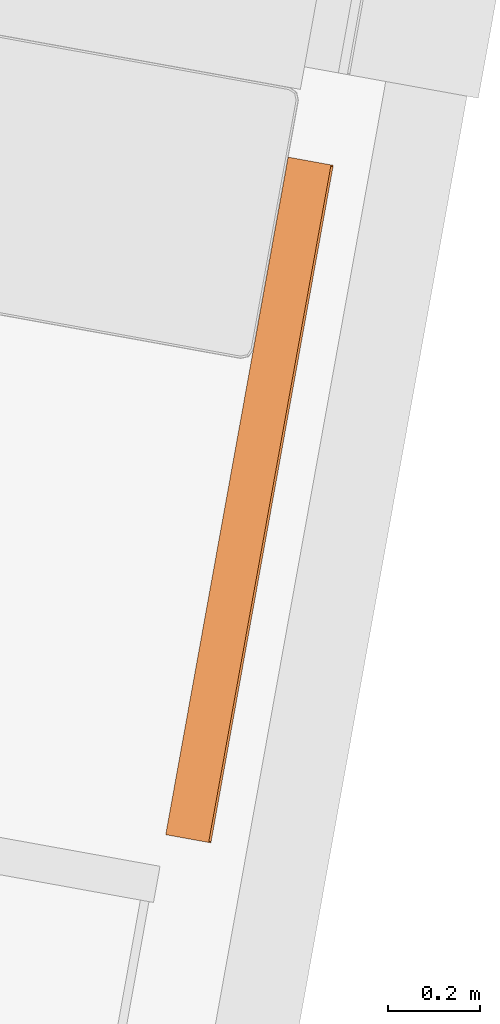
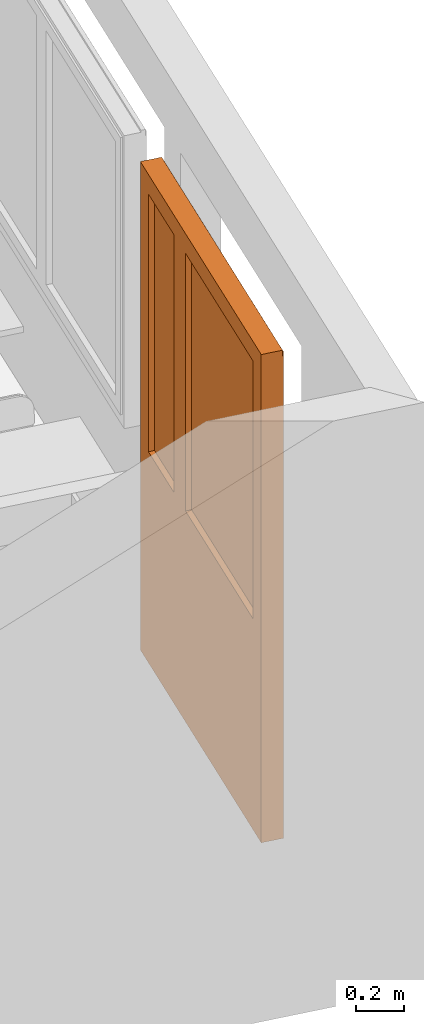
# One storey, part 54 of 79: 1 proxy.
"""IFC2X3 building model written with IfcOpenShell, lengths in metres."""

from ifc_helpers import new_model, entity, si_unit, converted_unit, derived_unit, money_unit, direction, frame, origin_with_axes, place, context, subcontext, project, spatial, open_shell, faceted_brep, surface_model, material, type_object, element, save


model = new_model("IFC2X3")

# Units and contexts
model_context = context("Model", 3, precision=1e-05, world=origin_with_axes(), true_north=direction((0.0, 1.0)))
body_context = subcontext(model_context, "Body", "Model", "MODEL_VIEW")
ifc_project = project(units=[si_unit("LENGTHUNIT", "METRE"), si_unit("AREAUNIT", "SQUARE_METRE"), si_unit("VOLUMEUNIT", "CUBIC_METRE"), converted_unit("PLANEANGLEUNIT", "DEGREE", entity("IfcPlaneAngleMeasure", 0.0174532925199), si_unit("PLANEANGLEUNIT", "RADIAN"), dimensions=[0, 0, 0, 0, 0, 0, 0]), money_unit("CHF"), converted_unit("TIMEUNIT", "Year", entity("IfcTimeMeasure", 31556926.0), si_unit("TIMEUNIT", "SECOND"), dimensions=[0, 0, 1, 0, 0, 0, 0]), si_unit("MASSUNIT", "GRAM", prefix="KILO"), si_unit("THERMODYNAMICTEMPERATUREUNIT", "DEGREE_CELSIUS"), si_unit("LUMINOUSINTENSITYUNIT", "LUMEN"), si_unit("ENERGYUNIT", "JOULE", prefix="MEGA"), derived_unit("THERMALCONDUCTANCEUNIT", [(si_unit("POWERUNIT", "WATT"), 1), (si_unit("LENGTHUNIT", "METRE"), -1), (si_unit("THERMODYNAMICTEMPERATUREUNIT", "KELVIN"), -1)]), derived_unit("SPECIFICHEATCAPACITYUNIT", [(si_unit("ENERGYUNIT", "JOULE"), 1), (si_unit("MASSUNIT", "GRAM", prefix="KILO"), -1), (si_unit("THERMODYNAMICTEMPERATUREUNIT", "KELVIN"), -1)]), derived_unit("MASSDENSITYUNIT", [(si_unit("MASSUNIT", "GRAM", prefix="KILO"), 1), (si_unit("VOLUMEUNIT", "CUBIC_METRE"), -1)])], contexts=[model_context])

# Site, building, storey
site_placement = place(None, frame((0.0, 0.0, 0.0), z_axis=(0.0, 0.0, 1.0), x_axis=(-0.177771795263, -0.984071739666, 0.0)))
site = spatial("IfcSite", under=ifc_project, at=site_placement, Name="Site", CompositionType="ELEMENT")
building_placement = place(site_placement, origin_with_axes())
building = spatial("IfcBuilding", under=site, at=building_placement, Name="Bâtiment", CompositionType="ELEMENT")
storey_placement = place(building_placement, origin_with_axes())
storey = spatial("IfcBuildingStorey", under=building, at=storey_placement, Name="RDC", CompositionType="ELEMENT", Elevation=0.0)

# Proxy
ifc_material = material(Name="Matériau de construction IFC")
building_element_proxy_type = type_object("IfcBuildingElementProxyType", Name="Porte double asymétrique 21", PredefinedType="NOTDEFINED")
proxy_placement = place(storey_placement, frame((163.999841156, -148.117150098, 0.0), z_axis=(0.0, 0.0, 1.0), x_axis=(-1.0, 0.0, 0.0)))
element("IfcBuildingElementProxy", 1, at=proxy_placement, inside=storey, type_object=building_element_proxy_type, material=ifc_material, Name="Porte classe", context=body_context, shape_type="SurfaceModel", body=[
    faceted_brep([(1.5, 0.285, 2.47), (1.5, 0.265, 2.47), (1.497, 0.265, 2.47), (1.497, 0.285, 2.47), (1.5, 0.285, 2.5), (1.5, 0.265, 2.5), (1.497, 0.265, 2.5), (1.497, 0.285, 2.5)], [[[0, 1, 2, 3]], [[0, 4, 5, 1]], [[1, 5, 6, 2]], [[3, 2, 6, 7]], [[4, 0, 3, 7]], [[5, 4, 7, 6]]]),
    faceted_brep([(0.00299999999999, 0.285, 2.47), (0.00299999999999, 0.265, 2.47), (0.0, 0.265, 2.47), (0.0, 0.285, 2.47), (0.00299999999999, 0.285, 2.5), (0.00299999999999, 0.265, 2.5), (0.0, 0.265, 2.5), (0.0, 0.285, 2.5)], [[[0, 1, 2, 3]], [[0, 4, 5, 1]], [[1, 5, 6, 2]], [[3, 2, 6, 7]], [[4, 0, 3, 7]], [[5, 4, 7, 6]]]),
    faceted_brep([(1.497, 0.285, 2.47), (1.497, 0.282, 2.47), (0.00299999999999, 0.282, 2.47), (0.00299999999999, 0.285, 2.47), (1.497, 0.285, 2.5), (1.497, 0.265, 2.5), (1.497, 0.265, 2.47), (1.497, 0.268, 2.47), (1.497, 0.268, 2.49), (1.497, 0.26, 2.49), (1.497, 0.26, 2.47), (1.497, 0.263, 2.47), (1.497, 0.263, 2.493), (1.497, 0.268, 2.493), (1.497, 0.268, 2.497), (1.497, 0.282, 2.497), (1.497, 0.282, 2.49), (0.00299999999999, 0.282, 2.49), (0.00299999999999, 0.282, 2.497), (0.00299999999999, 0.268, 2.497), (0.00299999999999, 0.268, 2.493), (0.00299999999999, 0.263, 2.493), (0.00299999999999, 0.263, 2.47), (0.00299999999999, 0.26, 2.47), (0.00299999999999, 0.26, 2.49), (0.00299999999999, 0.268, 2.49), (0.00299999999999, 0.268, 2.47), (0.00299999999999, 0.265, 2.47), (0.00299999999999, 0.265, 2.5), (0.00299999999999, 0.285, 2.5)], [[[0, 1, 2, 3]], [[0, 4, 5, 6, 7, 8, 9, 10, 11, 12, 13, 14, 15, 16, 1]], [[1, 16, 17, 2]], [[3, 2, 17, 18, 19, 20, 21, 22, 23, 24, 25, 26, 27, 28, 29]], [[4, 0, 3, 29]], [[5, 4, 29, 28]], [[6, 5, 28, 27]], [[7, 6, 27, 26]], [[8, 7, 26, 25]], [[9, 8, 25, 24]], [[10, 9, 24, 23]], [[11, 10, 23, 22]], [[12, 11, 22, 21]], [[13, 12, 21, 20]], [[14, 13, 20, 19]], [[15, 14, 19, 18]], [[16, 15, 18, 17]]]),
    faceted_brep([(0.0, 0.285, 0.0), (0.0, 0.26, 0.0), (0.0, 0.26, 2.47), (0.0, 0.285, 2.47), (0.025, 0.285, 0.0), (0.025, 0.282, 0.0), (0.00299999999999, 0.282, 0.0), (0.00299999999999, 0.263, 0.0), (0.025, 0.263, 0.0), (0.025, 0.26, 0.0), (0.025, 0.26, 2.47), (0.025, 0.263, 2.47), (0.00299999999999, 0.263, 2.47), (0.00299999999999, 0.282, 2.47), (0.025, 0.282, 2.47), (0.025, 0.285, 2.47)], [[[0, 1, 2, 3]], [[0, 4, 5, 6, 7, 8, 9, 1]], [[1, 9, 10, 2]], [[3, 2, 10, 11, 12, 13, 14, 15]], [[4, 0, 3, 15]], [[5, 4, 15, 14]], [[6, 5, 14, 13]], [[7, 6, 13, 12]], [[8, 7, 12, 11]], [[9, 8, 11, 10]]]),
    faceted_brep([(1.5, 0.285, 0.0), (1.5, 0.285, 2.47), (1.5, 0.26, 2.47), (1.5, 0.26, 0.0), (1.475, 0.285, 0.0), (1.475, 0.285, 2.47), (1.475, 0.282, 2.47), (1.497, 0.282, 2.47), (1.497, 0.263, 2.47), (1.475, 0.263, 2.47), (1.475, 0.26, 2.47), (1.475, 0.26, 0.0), (1.475, 0.263, 0.0), (1.497, 0.263, 0.0), (1.497, 0.282, 0.0), (1.475, 0.282, 0.0)], [[[0, 1, 2, 3]], [[4, 5, 1, 0]], [[1, 5, 6, 7, 8, 9, 10, 2]], [[3, 2, 10, 11]], [[0, 3, 11, 12, 13, 14, 15, 4]], [[15, 6, 5, 4]], [[14, 7, 6, 15]], [[13, 8, 7, 14]], [[12, 9, 8, 13]], [[11, 10, 9, 12]]]),
    faceted_brep([(0.00299999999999, 0.27375, 2.495), (1.497, 0.27375, 2.495), (1.497, 0.273333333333, 2.49333333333), (0.00299999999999, 0.273333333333, 2.49333333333), (0.00299999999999, 0.26875, 2.495), (1.497, 0.26875, 2.495), (1.497, 0.268333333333, 2.49333333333), (1.497, 0.268333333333, 2.48666666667), (1.497, 0.27, 2.48), (1.497, 0.275, 2.48), (1.497, 0.273333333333, 2.48666666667), (0.00299999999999, 0.273333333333, 2.48666666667), (0.00299999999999, 0.275, 2.48), (0.00299999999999, 0.27, 2.48), (0.00299999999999, 0.268333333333, 2.48666666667), (0.00299999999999, 0.268333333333, 2.49333333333)], [[[0, 1, 2, 3]], [[1, 0, 4, 5]], [[1, 5, 6, 7, 8, 9, 10, 2]], [[2, 10, 11, 3]], [[4, 0, 3, 11, 12, 13, 14, 15]], [[6, 5, 4, 15]], [[7, 6, 15, 14]], [[8, 7, 14, 13]], [[9, 8, 13, 12]], [[10, 9, 12, 11]]]),
    faceted_brep([(1.497, 0.275, 2.48), (1.497, 0.273333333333, 2.47333333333), (0.00299999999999, 0.273333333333, 2.47333333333), (0.00299999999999, 0.275, 2.48), (1.497, 0.27, 2.48), (1.497, 0.268333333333, 2.47333333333), (1.497, 0.268333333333, 2.46666666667), (1.497, 0.27, 2.46), (1.497, 0.275, 2.46), (1.497, 0.273333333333, 2.46666666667), (0.00299999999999, 0.273333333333, 2.46666666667), (0.00299999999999, 0.275, 2.46), (0.00299999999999, 0.27, 2.46), (0.00299999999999, 0.268333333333, 2.46666666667), (0.00299999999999, 0.268333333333, 2.47333333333), (0.00299999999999, 0.27, 2.48)], [[[0, 1, 2, 3]], [[0, 4, 5, 6, 7, 8, 9, 1]], [[1, 9, 10, 2]], [[3, 2, 10, 11, 12, 13, 14, 15]], [[4, 0, 3, 15]], [[5, 4, 15, 14]], [[6, 5, 14, 13]], [[7, 6, 13, 12]], [[8, 7, 12, 11]], [[9, 8, 11, 10]]]),
    faceted_brep([(1.497, 0.275, 2.46), (1.497, 0.273333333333, 2.45333333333), (0.00299999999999, 0.273333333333, 2.45333333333), (0.00299999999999, 0.275, 2.46), (1.497, 0.27, 2.46), (1.497, 0.268333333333, 2.45333333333), (1.497, 0.268333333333, 2.44666666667), (1.497, 0.27, 2.44), (1.497, 0.275, 2.44), (1.497, 0.273333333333, 2.44666666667), (0.00299999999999, 0.273333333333, 2.44666666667), (0.00299999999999, 0.275, 2.44), (0.00299999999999, 0.27, 2.44), (0.00299999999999, 0.268333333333, 2.44666666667), (0.00299999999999, 0.268333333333, 2.45333333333), (0.00299999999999, 0.27, 2.46)], [[[0, 1, 2, 3]], [[0, 4, 5, 6, 7, 8, 9, 1]], [[1, 9, 10, 2]], [[3, 2, 10, 11, 12, 13, 14, 15]], [[4, 0, 3, 15]], [[5, 4, 15, 14]], [[6, 5, 14, 13]], [[7, 6, 13, 12]], [[8, 7, 12, 11]], [[9, 8, 11, 10]]]),
    faceted_brep([(1.497, 0.275, 2.44), (1.497, 0.273333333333, 2.43333333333), (0.00299999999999, 0.273333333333, 2.43333333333), (0.00299999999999, 0.275, 2.44), (1.497, 0.27, 2.44), (1.497, 0.268333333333, 2.43333333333), (1.497, 0.268333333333, 2.42666666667), (1.497, 0.27, 2.42), (1.497, 0.275, 2.42), (1.497, 0.273333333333, 2.42666666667), (0.00299999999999, 0.273333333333, 2.42666666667), (0.00299999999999, 0.275, 2.42), (0.00299999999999, 0.27, 2.42), (0.00299999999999, 0.268333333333, 2.42666666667), (0.00299999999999, 0.268333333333, 2.43333333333), (0.00299999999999, 0.27, 2.44)], [[[0, 1, 2, 3]], [[0, 4, 5, 6, 7, 8, 9, 1]], [[1, 9, 10, 2]], [[3, 2, 10, 11, 12, 13, 14, 15]], [[4, 0, 3, 15]], [[5, 4, 15, 14]], [[6, 5, 14, 13]], [[7, 6, 13, 12]], [[8, 7, 12, 11]], [[9, 8, 11, 10]]]),
    faceted_brep([(1.497, 0.275, 2.42), (1.497, 0.273333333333, 2.41333333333), (0.00299999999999, 0.273333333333, 2.41333333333), (0.00299999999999, 0.275, 2.42), (1.497, 0.27, 2.42), (1.497, 0.268333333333, 2.41333333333), (1.497, 0.268333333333, 2.40666666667), (1.497, 0.27, 2.4), (1.497, 0.275, 2.4), (1.497, 0.273333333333, 2.40666666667), (0.00299999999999, 0.273333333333, 2.40666666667), (0.00299999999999, 0.275, 2.4), (0.00299999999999, 0.27, 2.4), (0.00299999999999, 0.268333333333, 2.40666666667), (0.00299999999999, 0.268333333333, 2.41333333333), (0.00299999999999, 0.27, 2.42)], [[[0, 1, 2, 3]], [[0, 4, 5, 6, 7, 8, 9, 1]], [[1, 9, 10, 2]], [[3, 2, 10, 11, 12, 13, 14, 15]], [[4, 0, 3, 15]], [[5, 4, 15, 14]], [[6, 5, 14, 13]], [[7, 6, 13, 12]], [[8, 7, 12, 11]], [[9, 8, 11, 10]]]),
    faceted_brep([(1.497, 0.275, 2.4), (1.497, 0.273333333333, 2.39333333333), (0.00299999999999, 0.273333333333, 2.39333333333), (0.00299999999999, 0.275, 2.4), (1.497, 0.27, 2.4), (1.497, 0.268333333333, 2.39333333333), (1.497, 0.268333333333, 2.38666666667), (1.497, 0.27, 2.38), (1.497, 0.275, 2.38), (1.497, 0.273333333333, 2.38666666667), (0.00299999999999, 0.273333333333, 2.38666666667), (0.00299999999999, 0.275, 2.38), (0.00299999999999, 0.27, 2.38), (0.00299999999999, 0.268333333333, 2.38666666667), (0.00299999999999, 0.268333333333, 2.39333333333), (0.00299999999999, 0.27, 2.4)], [[[0, 1, 2, 3]], [[0, 4, 5, 6, 7, 8, 9, 1]], [[1, 9, 10, 2]], [[3, 2, 10, 11, 12, 13, 14, 15]], [[4, 0, 3, 15]], [[5, 4, 15, 14]], [[6, 5, 14, 13]], [[7, 6, 13, 12]], [[8, 7, 12, 11]], [[9, 8, 11, 10]]]),
    faceted_brep([(1.497, 0.275, 2.38), (1.497, 0.273333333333, 2.37333333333), (0.00299999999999, 0.273333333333, 2.37333333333), (0.00299999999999, 0.275, 2.38), (1.497, 0.27, 2.38), (1.497, 0.268333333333, 2.37333333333), (1.497, 0.268333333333, 2.36666666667), (1.497, 0.27, 2.36), (1.497, 0.275, 2.36), (1.497, 0.273333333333, 2.36666666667), (0.00299999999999, 0.273333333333, 2.36666666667), (0.00299999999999, 0.275, 2.36), (0.00299999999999, 0.27, 2.36), (0.00299999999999, 0.268333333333, 2.36666666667), (0.00299999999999, 0.268333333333, 2.37333333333), (0.00299999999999, 0.27, 2.38)], [[[0, 1, 2, 3]], [[0, 4, 5, 6, 7, 8, 9, 1]], [[1, 9, 10, 2]], [[3, 2, 10, 11, 12, 13, 14, 15]], [[4, 0, 3, 15]], [[5, 4, 15, 14]], [[6, 5, 14, 13]], [[7, 6, 13, 12]], [[8, 7, 12, 11]], [[9, 8, 11, 10]]]),
    faceted_brep([(1.497, 0.275, 2.36), (1.497, 0.273333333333, 2.35333333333), (0.00299999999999, 0.273333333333, 2.35333333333), (0.00299999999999, 0.275, 2.36), (1.497, 0.27, 2.36), (1.497, 0.268333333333, 2.35333333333), (1.497, 0.268333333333, 2.34666666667), (1.497, 0.27, 2.34), (1.497, 0.275, 2.34), (1.497, 0.273333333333, 2.34666666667), (0.00299999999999, 0.273333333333, 2.34666666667), (0.00299999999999, 0.275, 2.34), (0.00299999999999, 0.27, 2.34), (0.00299999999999, 0.268333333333, 2.34666666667), (0.00299999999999, 0.268333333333, 2.35333333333), (0.00299999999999, 0.27, 2.36)], [[[0, 1, 2, 3]], [[0, 4, 5, 6, 7, 8, 9, 1]], [[1, 9, 10, 2]], [[3, 2, 10, 11, 12, 13, 14, 15]], [[4, 0, 3, 15]], [[5, 4, 15, 14]], [[6, 5, 14, 13]], [[7, 6, 13, 12]], [[8, 7, 12, 11]], [[9, 8, 11, 10]]]),
    faceted_brep([(1.497, 0.275, 2.34), (1.497, 0.273333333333, 2.33333333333), (0.00299999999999, 0.273333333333, 2.33333333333), (0.00299999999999, 0.275, 2.34), (1.497, 0.27, 2.34), (1.497, 0.268333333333, 2.33333333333), (1.497, 0.268333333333, 2.32666666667), (1.497, 0.27, 2.32), (1.497, 0.275, 2.32), (1.497, 0.273333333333, 2.32666666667), (0.00299999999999, 0.273333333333, 2.32666666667), (0.00299999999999, 0.275, 2.32), (0.00299999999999, 0.27, 2.32), (0.00299999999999, 0.268333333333, 2.32666666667), (0.00299999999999, 0.268333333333, 2.33333333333), (0.00299999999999, 0.27, 2.34)], [[[0, 1, 2, 3]], [[0, 4, 5, 6, 7, 8, 9, 1]], [[1, 9, 10, 2]], [[3, 2, 10, 11, 12, 13, 14, 15]], [[4, 0, 3, 15]], [[5, 4, 15, 14]], [[6, 5, 14, 13]], [[7, 6, 13, 12]], [[8, 7, 12, 11]], [[9, 8, 11, 10]]]),
    faceted_brep([(1.497, 0.275, 2.32), (1.497, 0.273333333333, 2.31333333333), (0.00299999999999, 0.273333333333, 2.31333333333), (0.00299999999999, 0.275, 2.32), (1.497, 0.27, 2.32), (1.497, 0.268333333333, 2.31333333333), (1.497, 0.268333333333, 2.30666666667), (1.497, 0.27, 2.3), (1.497, 0.275, 2.3), (1.497, 0.273333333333, 2.30666666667), (0.00299999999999, 0.273333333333, 2.30666666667), (0.00299999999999, 0.275, 2.3), (0.00299999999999, 0.27, 2.3), (0.00299999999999, 0.268333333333, 2.30666666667), (0.00299999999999, 0.268333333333, 2.31333333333), (0.00299999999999, 0.27, 2.32)], [[[0, 1, 2, 3]], [[0, 4, 5, 6, 7, 8, 9, 1]], [[1, 9, 10, 2]], [[3, 2, 10, 11, 12, 13, 14, 15]], [[4, 0, 3, 15]], [[5, 4, 15, 14]], [[6, 5, 14, 13]], [[7, 6, 13, 12]], [[8, 7, 12, 11]], [[9, 8, 11, 10]]]),
    faceted_brep([(1.497, 0.275, 2.3), (1.497, 0.273333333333, 2.29333333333), (0.00299999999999, 0.273333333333, 2.29333333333), (0.00299999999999, 0.275, 2.3), (1.497, 0.27, 2.3), (1.497, 0.268333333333, 2.29333333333), (1.497, 0.268333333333, 2.28666666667), (1.497, 0.27, 2.28), (1.497, 0.275, 2.28), (1.497, 0.273333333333, 2.28666666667), (0.00299999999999, 0.273333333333, 2.28666666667), (0.00299999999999, 0.275, 2.28), (0.00299999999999, 0.27, 2.28), (0.00299999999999, 0.268333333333, 2.28666666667), (0.00299999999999, 0.268333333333, 2.29333333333), (0.00299999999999, 0.27, 2.3)], [[[0, 1, 2, 3]], [[0, 4, 5, 6, 7, 8, 9, 1]], [[1, 9, 10, 2]], [[3, 2, 10, 11, 12, 13, 14, 15]], [[4, 0, 3, 15]], [[5, 4, 15, 14]], [[6, 5, 14, 13]], [[7, 6, 13, 12]], [[8, 7, 12, 11]], [[9, 8, 11, 10]]]),
    faceted_brep([(1.497, 0.275, 2.28), (1.497, 0.273333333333, 2.27333333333), (0.00299999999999, 0.273333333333, 2.27333333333), (0.00299999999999, 0.275, 2.28), (1.497, 0.27, 2.28), (1.497, 0.268333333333, 2.27333333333), (1.497, 0.268333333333, 2.26666666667), (1.497, 0.27, 2.26), (1.497, 0.275, 2.26), (1.497, 0.273333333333, 2.26666666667), (0.00299999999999, 0.273333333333, 2.26666666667), (0.00299999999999, 0.275, 2.26), (0.00299999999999, 0.27, 2.26), (0.00299999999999, 0.268333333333, 2.26666666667), (0.00299999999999, 0.268333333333, 2.27333333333), (0.00299999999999, 0.27, 2.28)], [[[0, 1, 2, 3]], [[0, 4, 5, 6, 7, 8, 9, 1]], [[1, 9, 10, 2]], [[3, 2, 10, 11, 12, 13, 14, 15]], [[4, 0, 3, 15]], [[5, 4, 15, 14]], [[6, 5, 14, 13]], [[7, 6, 13, 12]], [[8, 7, 12, 11]], [[9, 8, 11, 10]]]),
    faceted_brep([(1.497, 0.275, 2.26), (1.497, 0.273333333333, 2.25333333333), (0.00299999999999, 0.273333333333, 2.25333333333), (0.00299999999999, 0.275, 2.26), (1.497, 0.27, 2.26), (1.497, 0.268333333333, 2.25333333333), (1.497, 0.268333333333, 2.24666666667), (1.497, 0.27, 2.24), (1.497, 0.275, 2.24), (1.497, 0.273333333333, 2.24666666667), (0.00299999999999, 0.273333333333, 2.24666666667), (0.00299999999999, 0.275, 2.24), (0.00299999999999, 0.27, 2.24), (0.00299999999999, 0.268333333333, 2.24666666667), (0.00299999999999, 0.268333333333, 2.25333333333), (0.00299999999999, 0.27, 2.26)], [[[0, 1, 2, 3]], [[0, 4, 5, 6, 7, 8, 9, 1]], [[1, 9, 10, 2]], [[3, 2, 10, 11, 12, 13, 14, 15]], [[4, 0, 3, 15]], [[5, 4, 15, 14]], [[6, 5, 14, 13]], [[7, 6, 13, 12]], [[8, 7, 12, 11]], [[9, 8, 11, 10]]]),
    faceted_brep([(1.497, 0.275, 2.24), (1.497, 0.273333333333, 2.23333333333), (0.00299999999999, 0.273333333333, 2.23333333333), (0.00299999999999, 0.275, 2.24), (1.497, 0.27, 2.24), (1.497, 0.268333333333, 2.23333333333), (1.497, 0.268333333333, 2.22666666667), (1.497, 0.27, 2.22), (1.497, 0.275, 2.22), (1.497, 0.273333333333, 2.22666666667), (0.00299999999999, 0.273333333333, 2.22666666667), (0.00299999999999, 0.275, 2.22), (0.00299999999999, 0.27, 2.22), (0.00299999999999, 0.268333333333, 2.22666666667), (0.00299999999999, 0.268333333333, 2.23333333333), (0.00299999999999, 0.27, 2.24)], [[[0, 1, 2, 3]], [[0, 4, 5, 6, 7, 8, 9, 1]], [[1, 9, 10, 2]], [[3, 2, 10, 11, 12, 13, 14, 15]], [[4, 0, 3, 15]], [[5, 4, 15, 14]], [[6, 5, 14, 13]], [[7, 6, 13, 12]], [[8, 7, 12, 11]], [[9, 8, 11, 10]]]),
    faceted_brep([(1.497, 0.275, 2.22), (1.497, 0.273333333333, 2.21333333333), (0.00299999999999, 0.273333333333, 2.21333333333), (0.00299999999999, 0.275, 2.22), (1.497, 0.27, 2.22), (1.497, 0.268333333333, 2.21333333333), (1.497, 0.268333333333, 2.20666666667), (1.497, 0.27, 2.2), (1.497, 0.275, 2.2), (1.497, 0.273333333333, 2.20666666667), (0.00299999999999, 0.273333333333, 2.20666666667), (0.00299999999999, 0.275, 2.2), (0.00299999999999, 0.27, 2.2), (0.00299999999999, 0.268333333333, 2.20666666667), (0.00299999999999, 0.268333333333, 2.21333333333), (0.00299999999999, 0.27, 2.22)], [[[0, 1, 2, 3]], [[0, 4, 5, 6, 7, 8, 9, 1]], [[1, 9, 10, 2]], [[3, 2, 10, 11, 12, 13, 14, 15]], [[4, 0, 3, 15]], [[5, 4, 15, 14]], [[6, 5, 14, 13]], [[7, 6, 13, 12]], [[8, 7, 12, 11]], [[9, 8, 11, 10]]]),
    faceted_brep([(1.5, 0.36, 0.0), (1.5, 0.285, 0.0), (1.47, 0.285, 0.0), (1.47, 0.36, 0.0), (1.5, 0.36, 2.47), (1.5, 0.285, 2.47), (1.47, 0.285, 2.47), (1.47, 0.36, 2.47)], [[[0, 1, 2, 3]], [[4, 5, 1, 0]], [[1, 5, 6, 2]], [[3, 2, 6, 7]], [[0, 3, 7, 4]], [[7, 6, 5, 4]]]),
    faceted_brep([(0.0, 0.36, 0.0), (0.0, 0.285, 0.0), (0.0, 0.285, 2.47), (0.0, 0.36, 2.47), (0.03, 0.36, 0.0), (0.03, 0.285, 0.0), (0.03, 0.285, 2.47), (0.03, 0.36, 2.47)], [[[0, 1, 2, 3]], [[4, 5, 1, 0]], [[1, 5, 6, 2]], [[3, 2, 6, 7]], [[0, 3, 7, 4]], [[7, 6, 5, 4]]]),
    faceted_brep([(1.5, 0.36, 2.5), (1.5, 0.285, 2.5), (1.5, 0.285, 2.47), (1.5, 0.36, 2.47), (0.0, 0.36, 2.5), (0.0, 0.285, 2.5), (0.0, 0.285, 2.47), (0.03, 0.285, 2.47), (1.47, 0.285, 2.47), (1.47, 0.36, 2.47), (0.03, 0.36, 2.47), (0.0, 0.36, 2.47)], [[[0, 1, 2, 3]], [[4, 5, 1, 0]], [[1, 5, 6, 7, 8, 2]], [[3, 2, 8, 9]], [[0, 3, 9, 10, 11, 4]], [[11, 6, 5, 4]], [[10, 7, 6, 11]], [[9, 8, 7, 10]]]),
    faceted_brep([(0.03, 0.36, 1.08), (0.1, 0.36, 1.08), (0.1, 0.285, 1.08), (0.03, 0.285, 1.08), (0.03, 0.36, 2.4), (0.1, 0.36, 2.4), (0.1, 0.285, 2.4), (0.03, 0.285, 2.4)], [[[0, 1, 2, 3]], [[0, 4, 5, 1]], [[1, 5, 6, 2]], [[3, 2, 6, 7]], [[4, 0, 3, 7]], [[5, 4, 7, 6]]]),
    faceted_brep([(1.01, 0.36, 1.08), (1.01, 0.36, 2.4), (1.01, 0.285, 2.4), (1.01, 0.285, 1.08), (0.94, 0.36, 1.08), (0.94, 0.36, 2.4), (0.94, 0.285, 2.4), (0.94, 0.285, 1.08)], [[[0, 1, 2, 3]], [[0, 4, 5, 1]], [[1, 5, 6, 2]], [[3, 2, 6, 7]], [[4, 0, 3, 7]], [[5, 4, 7, 6]]]),
    faceted_brep([(0.03, 0.36, 0.0), (1.01, 0.36, 0.0), (1.01, 0.285, 0.0), (0.03, 0.285, 0.0), (0.03, 0.36, 1.08), (0.1, 0.36, 1.08), (0.94, 0.36, 1.08), (1.01, 0.36, 1.08), (1.01, 0.285, 1.08), (0.94, 0.285, 1.08), (0.1, 0.285, 1.08), (0.03, 0.285, 1.08)], [[[0, 1, 2, 3]], [[0, 4, 5, 6, 7, 1]], [[1, 7, 8, 2]], [[3, 2, 8, 9, 10, 11]], [[4, 0, 3, 11]], [[5, 4, 11, 10]], [[6, 5, 10, 9]], [[7, 6, 9, 8]]]),
    faceted_brep([(0.03, 0.36, 2.47), (0.03, 0.36, 2.4), (0.03, 0.285, 2.4), (0.03, 0.285, 2.47), (1.01, 0.36, 2.47), (1.01, 0.36, 2.4), (0.94, 0.36, 2.4), (0.1, 0.36, 2.4), (0.1, 0.285, 2.4), (0.94, 0.285, 2.4), (1.01, 0.285, 2.4), (1.01, 0.285, 2.47)], [[[0, 1, 2, 3]], [[0, 4, 5, 6, 7, 1]], [[1, 7, 8, 2]], [[3, 2, 8, 9, 10, 11]], [[4, 0, 3, 11]], [[5, 4, 11, 10]], [[6, 5, 10, 9]], [[7, 6, 9, 8]]]),
    surface_model("IfcShellBasedSurfaceModel", [(0.1, 0.3325, 1.08), (0.1, 0.3325, 2.4), (0.94, 0.3325, 2.4), (0.94, 0.3325, 1.08)], [open_shell([[[0, 1, 2, 3]]])]),
    surface_model("IfcShellBasedSurfaceModel", [(0.1, 0.3125, 1.08), (0.94, 0.3125, 1.08), (0.94, 0.3125, 2.4), (0.1, 0.3125, 2.4)], [open_shell([[[0, 1, 2, 3]]])]),
    faceted_brep([(1.47, 0.36, 1.08), (1.47, 0.285, 1.08), (1.4, 0.285, 1.08), (1.4, 0.36, 1.08), (1.47, 0.36, 2.4), (1.47, 0.285, 2.4), (1.4, 0.285, 2.4), (1.4, 0.36, 2.4)], [[[0, 1, 2, 3]], [[4, 5, 1, 0]], [[1, 5, 6, 2]], [[3, 2, 6, 7]], [[0, 3, 7, 4]], [[7, 6, 5, 4]]]),
    faceted_brep([(1.01, 0.36, 1.08), (1.01, 0.285, 1.08), (1.01, 0.285, 2.4), (1.01, 0.36, 2.4), (1.08, 0.36, 1.08), (1.08, 0.285, 1.08), (1.08, 0.285, 2.4), (1.08, 0.36, 2.4)], [[[0, 1, 2, 3]], [[4, 5, 1, 0]], [[1, 5, 6, 2]], [[3, 2, 6, 7]], [[0, 3, 7, 4]], [[7, 6, 5, 4]]]),
    faceted_brep([(1.47, 0.36, 0.0), (1.47, 0.285, 0.0), (1.01, 0.285, 0.0), (1.01, 0.36, 0.0), (1.47, 0.36, 1.08), (1.47, 0.285, 1.08), (1.4, 0.285, 1.08), (1.08, 0.285, 1.08), (1.01, 0.285, 1.08), (1.01, 0.36, 1.08), (1.08, 0.36, 1.08), (1.4, 0.36, 1.08)], [[[0, 1, 2, 3]], [[4, 5, 1, 0]], [[1, 5, 6, 7, 8, 2]], [[3, 2, 8, 9]], [[0, 3, 9, 10, 11, 4]], [[11, 6, 5, 4]], [[10, 7, 6, 11]], [[9, 8, 7, 10]]]),
    faceted_brep([(1.47, 0.36, 2.47), (1.47, 0.285, 2.47), (1.47, 0.285, 2.4), (1.47, 0.36, 2.4), (1.01, 0.36, 2.47), (1.01, 0.285, 2.47), (1.01, 0.285, 2.4), (1.08, 0.285, 2.4), (1.4, 0.285, 2.4), (1.4, 0.36, 2.4), (1.08, 0.36, 2.4), (1.01, 0.36, 2.4)], [[[0, 1, 2, 3]], [[4, 5, 1, 0]], [[1, 5, 6, 7, 8, 2]], [[3, 2, 8, 9]], [[0, 3, 9, 10, 11, 4]], [[11, 6, 5, 4]], [[10, 7, 6, 11]], [[9, 8, 7, 10]]]),
    surface_model("IfcShellBasedSurfaceModel", [(1.4, 0.3325, 1.08), (1.08, 0.3325, 1.08), (1.08, 0.3325, 2.4), (1.4, 0.3325, 2.4)], [open_shell([[[0, 1, 2, 3]]])]),
    surface_model("IfcShellBasedSurfaceModel", [(1.4, 0.3125, 1.08), (1.4, 0.3125, 2.4), (1.08, 0.3125, 2.4), (1.08, 0.3125, 1.08)], [open_shell([[[0, 1, 2, 3]]])]),
])

save(model, "model.ifc")
